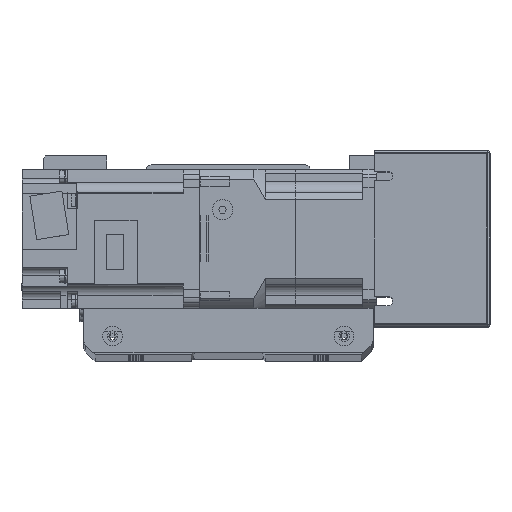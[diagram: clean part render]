
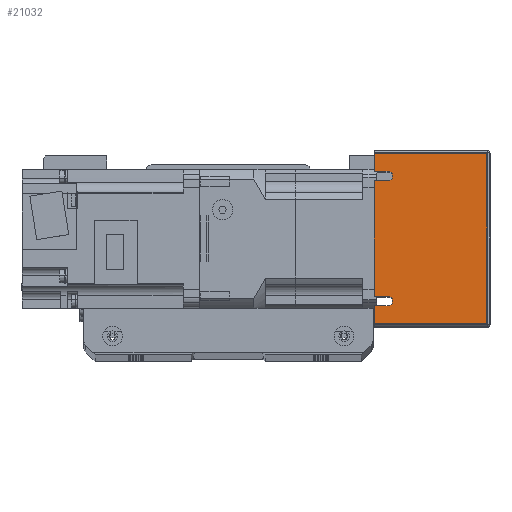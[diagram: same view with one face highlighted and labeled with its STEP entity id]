
A CAD part, top view. The second image highlights one B-rep face of the part: STEP entity #21032.
In plain terms, the highlighted planar face has unit normal (0, 0, 1) as drawn and (-1, 0, 0) by its records, which use the part's own axes.
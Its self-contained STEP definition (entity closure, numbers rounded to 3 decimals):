
#665=PLANE('',#23277);
#1995=LINE('',#35189,#3619);
#2002=LINE('',#35205,#3626);
#2011=LINE('',#35225,#3635);
#2019=LINE('',#35243,#3643);
#2034=LINE('',#35286,#3658);
#2036=LINE('',#35293,#3660);
#2039=LINE('',#35302,#3663);
#2044=LINE('',#35316,#3668);
#2045=LINE('',#35318,#3669);
#2046=LINE('',#35319,#3670);
#3619=VECTOR('',#28668,10.);
#3626=VECTOR('',#28679,10.);
#3635=VECTOR('',#28692,10.);
#3643=VECTOR('',#28704,10.);
#3658=VECTOR('',#28749,10.);
#3660=VECTOR('',#28757,10.);
#3663=VECTOR('',#28766,10.);
#3668=VECTOR('',#28779,10.);
#3669=VECTOR('',#28780,10.);
#3670=VECTOR('',#28781,10.);
#6062=FACE_OUTER_BOUND('',#7722,.T.);
#7722=EDGE_LOOP('',(#18238,#18239,#18240,#18241,#18242,#18243,#18244,#18245,
#18246,#18247,#18248,#18249));
#8888=CIRCLE('',#23256,2.);
#8893=CIRCLE('',#23264,2.);
#10601=VERTEX_POINT('',#35186);
#10602=VERTEX_POINT('',#35188);
#10608=VERTEX_POINT('',#35202);
#10609=VERTEX_POINT('',#35204);
#10617=VERTEX_POINT('',#35222);
#10618=VERTEX_POINT('',#35224);
#10625=VERTEX_POINT('',#35240);
#10626=VERTEX_POINT('',#35242);
#10639=VERTEX_POINT('',#35285);
#10644=VERTEX_POINT('',#35300);
#10649=VERTEX_POINT('',#35315);
#10650=VERTEX_POINT('',#35317);
#13177=EDGE_CURVE('',#10601,#10602,#1995,.T.);
#13184=EDGE_CURVE('',#10608,#10609,#2002,.T.);
#13193=EDGE_CURVE('',#10617,#10618,#2011,.T.);
#13201=EDGE_CURVE('',#10625,#10626,#2019,.T.);
#13208=EDGE_CURVE('',#10609,#10601,#8888,.T.);
#13219=EDGE_CURVE('',#10626,#10617,#8893,.T.);
#13225=EDGE_CURVE('',#10639,#10618,#2034,.T.);
#13229=EDGE_CURVE('',#10625,#10602,#2036,.T.);
#13234=EDGE_CURVE('',#10608,#10644,#2039,.T.);
#13241=EDGE_CURVE('',#10644,#10649,#2044,.T.);
#13242=EDGE_CURVE('',#10649,#10650,#2045,.T.);
#13243=EDGE_CURVE('',#10650,#10639,#2046,.T.);
#18238=ORIENTED_EDGE('',*,*,#13177,.F.);
#18239=ORIENTED_EDGE('',*,*,#13208,.F.);
#18240=ORIENTED_EDGE('',*,*,#13184,.F.);
#18241=ORIENTED_EDGE('',*,*,#13234,.T.);
#18242=ORIENTED_EDGE('',*,*,#13241,.T.);
#18243=ORIENTED_EDGE('',*,*,#13242,.T.);
#18244=ORIENTED_EDGE('',*,*,#13243,.T.);
#18245=ORIENTED_EDGE('',*,*,#13225,.T.);
#18246=ORIENTED_EDGE('',*,*,#13193,.F.);
#18247=ORIENTED_EDGE('',*,*,#13219,.F.);
#18248=ORIENTED_EDGE('',*,*,#13201,.F.);
#18249=ORIENTED_EDGE('',*,*,#13229,.T.);
#21032=ADVANCED_FACE('',(#6062),#665,.F.);
#23256=AXIS2_PLACEMENT_3D('',#35256,#28716,#28717);
#23264=AXIS2_PLACEMENT_3D('',#35274,#28738,#28739);
#23277=AXIS2_PLACEMENT_3D('',#35314,#28777,#28778);
#28668=DIRECTION('',(0.,0.,-1.));
#28679=DIRECTION('',(0.,0.,1.));
#28692=DIRECTION('',(0.,0.,-1.));
#28704=DIRECTION('',(0.,0.,1.));
#28716=DIRECTION('center_axis',(-1.,0.,0.));
#28717=DIRECTION('ref_axis',(0.,0.,-1.));
#28738=DIRECTION('center_axis',(-1.,0.,0.));
#28739=DIRECTION('ref_axis',(0.,0.,-1.));
#28749=DIRECTION('',(0.,-1.,0.));
#28757=DIRECTION('',(0.,-1.,0.));
#28766=DIRECTION('',(0.,-1.,0.));
#28777=DIRECTION('center_axis',(1.,0.,0.));
#28778=DIRECTION('ref_axis',(0.,-1.,0.));
#28779=DIRECTION('',(0.,0.,1.));
#28780=DIRECTION('',(0.,1.,0.));
#28781=DIRECTION('',(0.,0.,-1.));
#35186=CARTESIAN_POINT('',(-91.,-25.,-19.));
#35188=CARTESIAN_POINT('',(-91.,-25.,-25.));
#35189=CARTESIAN_POINT('',(-91.,-25.,-9.5));
#35202=CARTESIAN_POINT('',(-91.,-29.,-25.));
#35204=CARTESIAN_POINT('',(-91.,-29.,-19.));
#35205=CARTESIAN_POINT('',(-91.,-29.,-15.178));
#35222=CARTESIAN_POINT('',(-91.,29.,-19.));
#35224=CARTESIAN_POINT('',(-91.,29.,-25.));
#35225=CARTESIAN_POINT('',(-91.,29.,-9.5));
#35240=CARTESIAN_POINT('',(-91.,25.,-25.));
#35242=CARTESIAN_POINT('',(-91.,25.,-19.));
#35243=CARTESIAN_POINT('',(-91.,25.,-15.178));
#35256=CARTESIAN_POINT('Origin',(-91.,-27.,-19.));
#35274=CARTESIAN_POINT('Origin',(-91.,27.,-19.));
#35285=CARTESIAN_POINT('',(-91.,37.,-25.));
#35286=CARTESIAN_POINT('',(-91.,-38.,-25.));
#35293=CARTESIAN_POINT('',(-91.,-38.,-25.));
#35300=CARTESIAN_POINT('',(-91.,-37.,-25.));
#35302=CARTESIAN_POINT('',(-91.,-38.,-25.));
#35314=CARTESIAN_POINT('Origin',(-91.,38.,0.));
#35315=CARTESIAN_POINT('',(-91.,-37.,24.));
#35316=CARTESIAN_POINT('',(-91.,-37.,0.));
#35317=CARTESIAN_POINT('',(-91.,37.,24.));
#35318=CARTESIAN_POINT('',(-91.,19.,24.));
#35319=CARTESIAN_POINT('',(-91.,37.,0.));
